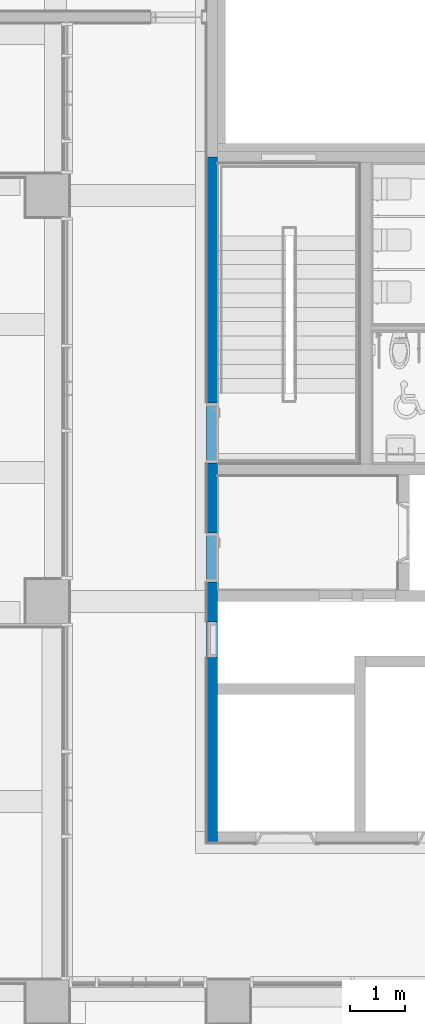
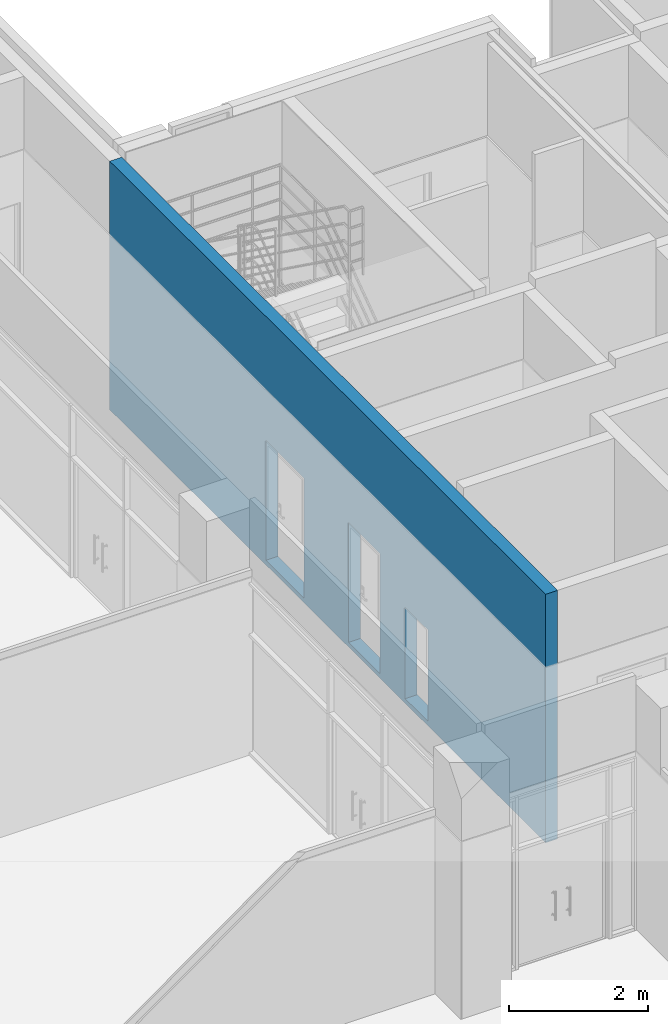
# One storey, part 53 of 74: 1 wall, 3 openings.
"""IFC2X3 building model written with IfcOpenShell, lengths in millimetres."""

from ifc_helpers import new_model, entity, si_unit, converted_unit, derived_unit, direction, frame, frame_2d, origin, place, context, subcontext, project, spatial, polyline, rectangle, extrude, clip, bounded_halfspace, material, layer, layer_set, layer_usage, type_object, element, save


model = new_model("IFC2X3")

# Units and contexts
model_context = context("Model", 3, precision=0.01, world=origin(), true_north=direction((6.123031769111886e-17, 1.0)))
body_context = subcontext(model_context, "Body", "Model", "MODEL_VIEW")
ifc_project = project(units=[si_unit("LENGTHUNIT", "METRE", prefix="MILLI"), si_unit("AREAUNIT", "SQUARE_METRE"), si_unit("VOLUMEUNIT", "CUBIC_METRE"), converted_unit("PLANEANGLEUNIT", "DEGREE", entity("IfcRatioMeasure", 0.017453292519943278), si_unit("PLANEANGLEUNIT", "RADIAN"), dimensions=[0, 0, 0, 0, 0, 0, 0]), si_unit("MASSUNIT", "GRAM", prefix="KILO"), derived_unit("MASSDENSITYUNIT", [(si_unit("MASSUNIT", "GRAM", prefix="KILO"), 1), (si_unit("LENGTHUNIT", "METRE"), -3)]), derived_unit("MOMENTOFINERTIAUNIT", [(si_unit("LENGTHUNIT", "METRE"), 4)]), si_unit("TIMEUNIT", "SECOND"), si_unit("FREQUENCYUNIT", "HERTZ"), si_unit("THERMODYNAMICTEMPERATUREUNIT", "DEGREE_CELSIUS"), derived_unit("THERMALTRANSMITTANCEUNIT", [(si_unit("MASSUNIT", "GRAM", prefix="KILO"), 1), (si_unit("THERMODYNAMICTEMPERATUREUNIT", "KELVIN"), -1), (si_unit("TIMEUNIT", "SECOND"), -3)]), derived_unit("VOLUMETRICFLOWRATEUNIT", [(si_unit("LENGTHUNIT", "METRE"), 3), (si_unit("TIMEUNIT", "SECOND"), -1)]), derived_unit("MASSFLOWRATEUNIT", [(si_unit("MASSUNIT", "GRAM", prefix="KILO"), 1), (si_unit("TIMEUNIT", "SECOND"), -1)]), derived_unit("ROTATIONALFREQUENCYUNIT", [(si_unit("TIMEUNIT", "SECOND"), -1)]), si_unit("ELECTRICCURRENTUNIT", "AMPERE"), si_unit("ELECTRICVOLTAGEUNIT", "VOLT"), si_unit("POWERUNIT", "WATT"), si_unit("FORCEUNIT", "NEWTON", prefix="KILO"), si_unit("ILLUMINANCEUNIT", "LUX"), si_unit("LUMINOUSFLUXUNIT", "LUMEN"), si_unit("LUMINOUSINTENSITYUNIT", "CANDELA"), derived_unit("USERDEFINED", [(si_unit("MASSUNIT", "GRAM", prefix="KILO"), -1), (si_unit("LENGTHUNIT", "METRE"), -2), (si_unit("TIMEUNIT", "SECOND"), 3), (si_unit("LUMINOUSFLUXUNIT", "LUMEN"), 1)]), derived_unit("SOUNDPOWERUNIT", [(si_unit("MASSUNIT", "GRAM", prefix="KILO"), 1), (si_unit("LENGTHUNIT", "METRE"), 2), (si_unit("TIMEUNIT", "SECOND"), -3)]), derived_unit("SOUNDPRESSUREUNIT", [(si_unit("MASSUNIT", "GRAM", prefix="KILO"), 1), (si_unit("LENGTHUNIT", "METRE"), -1), (si_unit("TIMEUNIT", "SECOND"), -2)]), derived_unit("LINEARVELOCITYUNIT", [(si_unit("LENGTHUNIT", "METRE"), 1), (si_unit("TIMEUNIT", "SECOND"), -1)]), si_unit("PRESSUREUNIT", "PASCAL"), derived_unit("USERDEFINED", [(si_unit("LENGTHUNIT", "METRE"), -2), (si_unit("MASSUNIT", "GRAM", prefix="KILO"), 1), (si_unit("TIMEUNIT", "SECOND"), -2)]), derived_unit("LINEARFORCEUNIT", [(si_unit("MASSUNIT", "GRAM", prefix="KILO"), 1), (si_unit("LENGTHUNIT", "METRE"), 1), (si_unit("TIMEUNIT", "SECOND"), -2), (si_unit("LENGTHUNIT", "METRE"), -1)]), derived_unit("PLANARFORCEUNIT", [(si_unit("MASSUNIT", "GRAM", prefix="KILO"), 1), (si_unit("LENGTHUNIT", "METRE"), 1), (si_unit("TIMEUNIT", "SECOND"), -2), (si_unit("LENGTHUNIT", "METRE"), -2)])], contexts=[model_context])

# Site, building, storey
site_placement = place(None, frame((-14167.972527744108, -657.2125860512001, 0.0)))
site = spatial("IfcSite", under=ifc_project, at=site_placement, Name="Default", CompositionType="ELEMENT")
building_placement = place(site_placement, origin())
building = spatial("IfcBuilding", under=site, at=building_placement, Name="Sample Building", CompositionType="ELEMENT")
storey_placement = place(building_placement, frame((0.0, 0.0, 4800.0)))
storey = spatial("IfcBuildingStorey", under=building, at=storey_placement, Name="지상 2층", CompositionType="ELEMENT", Elevation=4800.000000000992)

# Wall, openings
ifc_material = material(Name="KBIMS-콘크리트")
ifc_layer = layer(ifc_material, 200.0)
ifc_layer_set = layer_set([ifc_layer], Name="기본 벽:WA111-철근콘크리트구조 벽 200mm_CW1")
ifc_layer_usage = layer_usage(ifc_layer_set, "AXIS2", "NEGATIVE", 100.0)
wall_type = type_object("IfcWallType", Name="기본 벽:WA111-철근콘크리트구조 벽 200mm_CW1", PredefinedType="STANDARD", material=ifc_layer_set)
wall_placement = place(storey_placement, frame((30167.96376153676, 15553.30294707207, -1.9340006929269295e-09), z_axis=(0.0, 0.0, 1.0), x_axis=(0.0, 1.0, 0.0)))
wall = element("IfcWallStandardCase", 1, at=wall_placement, inside=storey, type_object=wall_type, material=ifc_layer_usage, Name="기본 벽:WA111-철근콘크리트구조 벽 200mm_CW1", ObjectType="기본 벽:WA111-철근콘크리트구조 벽 200mm_CW1", context=body_context, shape_type="Clipping", body=[
    clip(extrude(rectangle(XDim=12503.909360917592, YDim=200.00000000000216, at=frame_2d((6251.954680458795, -2.1671553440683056e-12), x_axis=(-1.0, 0.0))), origin(), (0.0, 0.0, 1.0), 4350.000000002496), bounded_halfspace(frame((6903.90936425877, -100.0, 4350.0), z_axis=(0.0, 0.0, -1.0), x_axis=(0.0, -1.0, 0.0)), True, frame((6903.90936425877, -100.0, 4350.0), z_axis=(0.0, 0.0, -1.0), x_axis=(0.0, -1.0, 0.0)), polyline([(0.0, 0.0), (0.0, 60960.0), (0.0, 701040.0), (0.0, 762000.0), (0.0, 2042160.0049346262), (0.0, 2043351.574226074), (0.0, 2104311.5742260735), (-60960.0, 2104311.574226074), (-60960.0, 2042159.9107361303), (-60960.0, 822959.9068200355), (-60960.0, 701039.9068200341), (-60960.0, -1706880.0), (0.0, -1706880.0), (0.0, 0.0)]))),
])
opening_1_placement = place(wall_placement, frame((5653.874678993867, 100.0, 80.0)))
element("IfcOpeningElement", 2, at=opening_1_placement, cuts=wall, Name="DR111-외여닫이문(철재, 일반):DR111-외여닫이문(철재, 일반) 900x2100mm:1", ObjectType="Opening", context=body_context, shape_type="SweptSolid", body=[
    extrude(rectangle(XDim=2099.999999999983, YDim=900.0000000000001, at=frame_2d((1049.999999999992, 450.00000000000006), x_axis=(1.0, 0.0))), frame((0.0, 0.0, 0.0), z_axis=(0.0, -1.0, 0.0), x_axis=(0.0, 0.0, 1.0)), (0.0, 0.0, 1.0), 200.0),
])
opening_2_placement = place(wall_placement, frame((8023.874680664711, 100.0, 80.0)))
element("IfcOpeningElement", 3, at=opening_2_placement, cuts=wall, Name="DR111-외여닫이문(철재, 일반):DR111-외여닫이문(철재, 일반) 1100x2100mm 2:1", ObjectType="Opening", context=body_context, shape_type="SweptSolid", body=[
    extrude(rectangle(XDim=2099.999999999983, YDim=1100.0, at=frame_2d((1049.9999999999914, 550.0), x_axis=(1.0, 0.0))), frame((0.0, 0.0, 0.0), z_axis=(0.0, -1.0, 0.0), x_axis=(0.0, 0.0, 1.0)), (0.0, 0.0, 1.0), 200.0),
])
opening_3_placement = place(wall_placement, frame((3378.8747316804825, -100.0, 80.0)))
element("IfcOpeningElement", 4, at=opening_3_placement, cuts=wall, Name="DR872-샤프트 점검구(스테인리스 스틸):DR872-샤프트 점검구(스테인리스 스틸)_650x1600:1", ObjectType="Opening", context=body_context, shape_type="SweptSolid", body=[
    extrude(rectangle(XDim=1600.0, YDim=649.9999999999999, at=frame_2d((800.0, 324.99999999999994), x_axis=(1.0, 0.0))), frame((0.0, 0.0, 0.0), z_axis=(0.0, 1.0, 0.0), x_axis=(0.0, 0.0, 1.0)), (0.0, 0.0, 1.0), 200.0),
])

save(model, "model.ifc")
